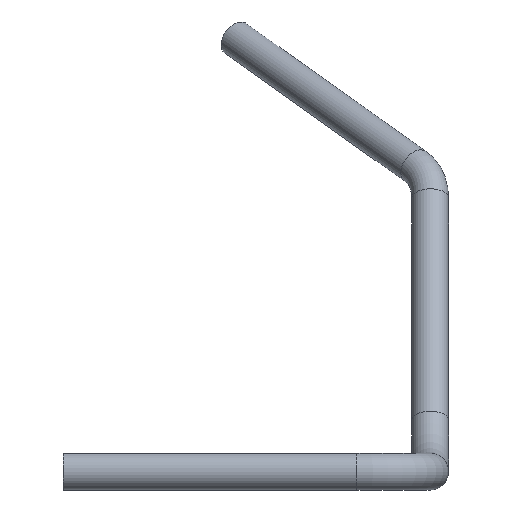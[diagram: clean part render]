
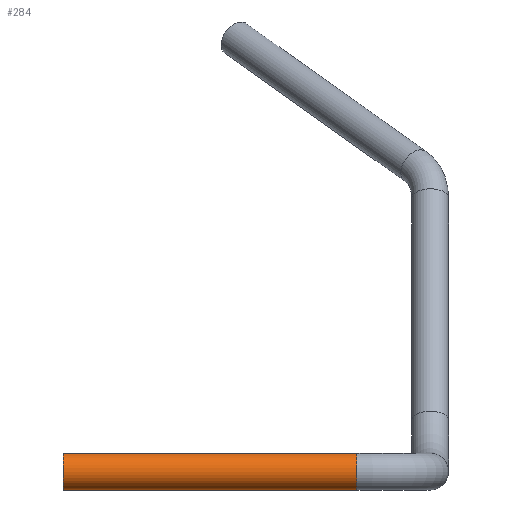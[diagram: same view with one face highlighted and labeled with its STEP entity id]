
A CAD part, front view. The second image highlights one B-rep face of the part: STEP entity #284.
In plain terms, the highlighted cylindrical face has radius 12.5 mm (diameter 25 mm), a full revolution.
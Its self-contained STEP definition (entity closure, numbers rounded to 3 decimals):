
#38=FACE_OUTER_BOUND('',#54,.T.);
#54=EDGE_LOOP('',(#254,#255,#256,#257,#258));
#66=LINE('',#544,#74);
#74=VECTOR('',#454,12.5);
#106=CIRCLE('',#345,12.5);
#107=CIRCLE('',#346,12.5);
#108=CIRCLE('',#348,12.5);
#134=VERTEX_POINT('',#537);
#135=VERTEX_POINT('',#539);
#136=VERTEX_POINT('',#543);
#175=EDGE_CURVE('',#134,#135,#106,.T.);
#176=EDGE_CURVE('',#135,#134,#107,.T.);
#177=EDGE_CURVE('',#135,#136,#66,.T.);
#178=EDGE_CURVE('',#136,#136,#108,.T.);
#254=ORIENTED_EDGE('',*,*,#176,.F.);
#255=ORIENTED_EDGE('',*,*,#177,.T.);
#256=ORIENTED_EDGE('',*,*,#178,.T.);
#257=ORIENTED_EDGE('',*,*,#177,.F.);
#258=ORIENTED_EDGE('',*,*,#175,.F.);
#270=CYLINDRICAL_SURFACE('',#347,12.5);
#284=ADVANCED_FACE('',(#38),#270,.T.);
#345=AXIS2_PLACEMENT_3D('',#540,#448,#449);
#346=AXIS2_PLACEMENT_3D('',#541,#450,#451);
#347=AXIS2_PLACEMENT_3D('',#542,#452,#453);
#348=AXIS2_PLACEMENT_3D('',#545,#455,#456);
#448=DIRECTION('center_axis',(1.,0.,0.));
#449=DIRECTION('ref_axis',(0.,1.,0.));
#450=DIRECTION('center_axis',(1.,0.,0.));
#451=DIRECTION('ref_axis',(0.,1.,0.));
#452=DIRECTION('center_axis',(1.,0.,0.));
#453=DIRECTION('ref_axis',(0.,1.,0.));
#454=DIRECTION('',(-1.,0.,0.));
#455=DIRECTION('center_axis',(1.,0.,0.));
#456=DIRECTION('ref_axis',(0.,1.,0.));
#537=CARTESIAN_POINT('',(200.,12.5,0.));
#539=CARTESIAN_POINT('',(200.,-12.5,0.));
#540=CARTESIAN_POINT('Origin',(200.,0.,0.));
#541=CARTESIAN_POINT('Origin',(200.,0.,0.));
#542=CARTESIAN_POINT('Origin',(0.,0.,0.));
#543=CARTESIAN_POINT('',(0.,-12.5,0.));
#544=CARTESIAN_POINT('',(0.,-12.5,0.));
#545=CARTESIAN_POINT('Origin',(0.,0.,0.));
